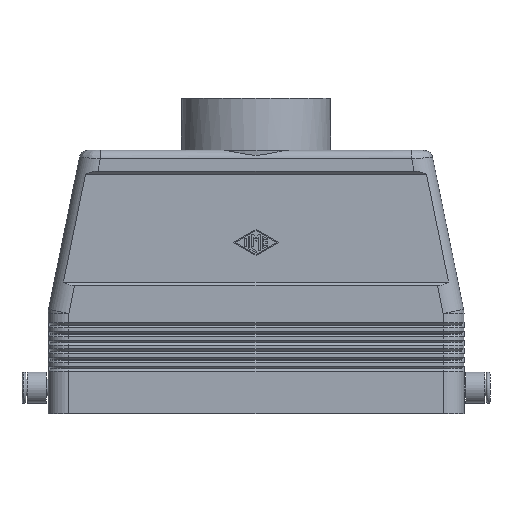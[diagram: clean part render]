
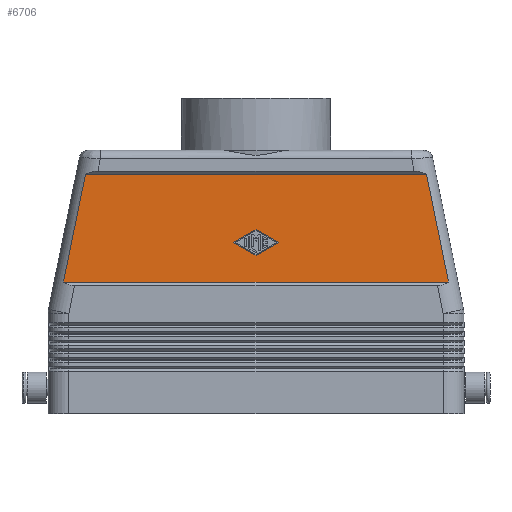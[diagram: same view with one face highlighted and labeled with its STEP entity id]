
A CAD part, front view. The second image highlights one B-rep face of the part: STEP entity #6706.
In plain terms, the highlighted planar face has unit normal (0, -1, 0).
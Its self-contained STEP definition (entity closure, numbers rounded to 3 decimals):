
#2 = ORIENTED_EDGE ( 'NONE', *, *, #151, .T. ) ;
#6 = ORIENTED_EDGE ( 'NONE', *, *, #12470, .T. ) ;
#47 = AXIS2_PLACEMENT_3D ( 'NONE', #3756, #4393, #4776 ) ;
#151 = EDGE_CURVE ( 'NONE', #8266, #11691, #5429, .T. ) ;
#227 = ORIENTED_EDGE ( 'NONE', *, *, #1283, .T. ) ;
#706 = ORIENTED_EDGE ( 'NONE', *, *, #4184, .T. ) ;
#958 = VERTEX_POINT ( 'NONE', #3468 ) ;
#968 = CARTESIAN_POINT ( 'NONE',  ( -50.767, -20.5, 61.288 ) ) ;
#1154 = LINE ( 'NONE', #4527, #6488 ) ;
#1283 = EDGE_CURVE ( 'NONE', #6076, #8563, #1774, .T. ) ;
#1774 = LINE ( 'NONE', #5800, #3961 ) ;
#2083 = CARTESIAN_POINT ( 'NONE',  ( 0., -20.5, 53.149 ) ) ;
#2415 = DIRECTION ( 'NONE',  ( -0.2, 0., 0.98 ) ) ;
#2492 = EDGE_CURVE ( 'NONE', #8563, #8539, #6575, .T. ) ;
#2722 = DIRECTION ( 'NONE',  ( 1., 0., 0. ) ) ;
#2724 = CARTESIAN_POINT ( 'NONE',  ( -6.5, -20.5, 49.4 ) ) ;
#3373 = VECTOR ( 'NONE', #7561, 1000. ) ;
#3468 = CARTESIAN_POINT ( 'NONE',  ( -49.191, -20.5, 69. ) ) ;
#3492 = DIRECTION ( 'NONE',  ( 1., 0., 0. ) ) ;
#3526 = VECTOR ( 'NONE', #12990, 1000. ) ;
#3756 = CARTESIAN_POINT ( 'NONE',  ( 0., -20.5, 69. ) ) ;
#3766 = CARTESIAN_POINT ( 'NONE',  ( 0., -20.5, 45.651 ) ) ;
#3816 = DIRECTION ( 'NONE',  ( -0.866, 0., 0.5 ) ) ;
#3961 = VECTOR ( 'NONE', #3492, 1000. ) ;
#4038 = CARTESIAN_POINT ( 'NONE',  ( -6.5, -20.5, 49.4 ) ) ;
#4184 = EDGE_CURVE ( 'NONE', #10232, #10595, #5094, .T. ) ;
#4393 = DIRECTION ( 'NONE',  ( 0., -1., 0. ) ) ;
#4437 = CARTESIAN_POINT ( 'NONE',  ( 6.5, -20.5, 49.4 ) ) ;
#4525 = CARTESIAN_POINT ( 'NONE',  ( 49.191, -20.5, 69. ) ) ;
#4527 = CARTESIAN_POINT ( 'NONE',  ( 0., -20.5, 69. ) ) ;
#4724 = EDGE_LOOP ( 'NONE', ( #10251, #706, #6, #2 ) ) ;
#4776 = DIRECTION ( 'NONE',  ( 0., 0., -1. ) ) ;
#5094 = LINE ( 'NONE', #4437, #10391 ) ;
#5429 = LINE ( 'NONE', #2724, #3373 ) ;
#5584 = CARTESIAN_POINT ( 'NONE',  ( -55.525, -20.5, 38. ) ) ;
#5652 = LINE ( 'NONE', #9127, #9687 ) ;
#5800 = CARTESIAN_POINT ( 'NONE',  ( 0., -20.5, 38. ) ) ;
#5912 = EDGE_LOOP ( 'NONE', ( #6672, #227, #7921, #8851 ) ) ;
#6076 = VERTEX_POINT ( 'NONE', #5584 ) ;
#6388 = CARTESIAN_POINT ( 'NONE',  ( 55.525, -20.5, 38. ) ) ;
#6488 = VECTOR ( 'NONE', #2722, 1000. ) ;
#6575 = LINE ( 'NONE', #10833, #10627 ) ;
#6672 = ORIENTED_EDGE ( 'NONE', *, *, #11526, .F. ) ;
#6706 = ADVANCED_FACE ( 'NONE', ( #11998, #7287 ), #8345, .T. ) ;
#6729 = LINE ( 'NONE', #9167, #9690 ) ;
#7287 = FACE_OUTER_BOUND ( 'NONE', #5912, .T. ) ;
#7561 = DIRECTION ( 'NONE',  ( 0.866, 0., 0.5 ) ) ;
#7630 = EDGE_CURVE ( 'NONE', #11691, #10232, #6729, .T. ) ;
#7921 = ORIENTED_EDGE ( 'NONE', *, *, #2492, .T. ) ;
#8266 = VERTEX_POINT ( 'NONE', #4038 ) ;
#8345 = PLANE ( 'NONE',  #47 ) ;
#8407 = CARTESIAN_POINT ( 'NONE',  ( 6.5, -20.5, 49.4 ) ) ;
#8539 = VERTEX_POINT ( 'NONE', #4525 ) ;
#8563 = VERTEX_POINT ( 'NONE', #6388 ) ;
#8742 = EDGE_CURVE ( 'NONE', #958, #8539, #1154, .T. ) ;
#8851 = ORIENTED_EDGE ( 'NONE', *, *, #8742, .F. ) ;
#8856 = LINE ( 'NONE', #968, #3526 ) ;
#8944 = DIRECTION ( 'NONE',  ( -0.866, 0., -0.5 ) ) ;
#9127 = CARTESIAN_POINT ( 'NONE',  ( 0., -20.5, 45.651 ) ) ;
#9167 = CARTESIAN_POINT ( 'NONE',  ( 0., -20.5, 53.149 ) ) ;
#9299 = DIRECTION ( 'NONE',  ( 0.866, 0., -0.5 ) ) ;
#9687 = VECTOR ( 'NONE', #3816, 1000. ) ;
#9690 = VECTOR ( 'NONE', #9299, 1000. ) ;
#10232 = VERTEX_POINT ( 'NONE', #8407 ) ;
#10251 = ORIENTED_EDGE ( 'NONE', *, *, #7630, .T. ) ;
#10391 = VECTOR ( 'NONE', #8944, 1000. ) ;
#10595 = VERTEX_POINT ( 'NONE', #3766 ) ;
#10627 = VECTOR ( 'NONE', #2415, 1000. ) ;
#10833 = CARTESIAN_POINT ( 'NONE',  ( 55.525, -20.5, 38. ) ) ;
#11526 = EDGE_CURVE ( 'NONE', #6076, #958, #8856, .T. ) ;
#11691 = VERTEX_POINT ( 'NONE', #2083 ) ;
#11998 = FACE_BOUND ( 'NONE', #4724, .T. ) ;
#12470 = EDGE_CURVE ( 'NONE', #10595, #8266, #5652, .T. ) ;
#12990 = DIRECTION ( 'NONE',  ( 0.2, 0., 0.98 ) ) ;
